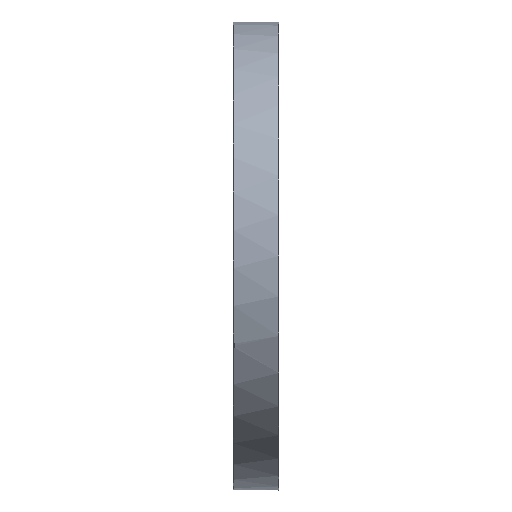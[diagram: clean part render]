
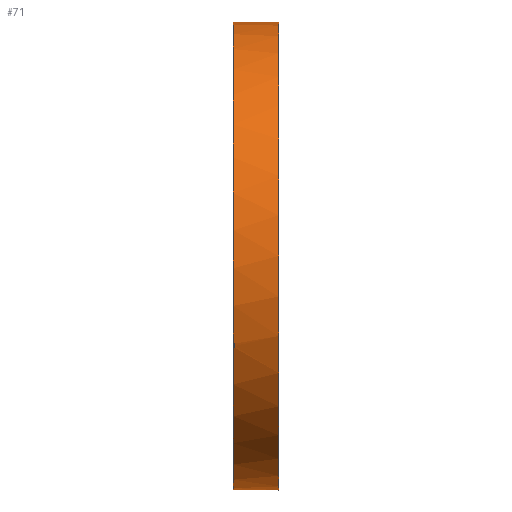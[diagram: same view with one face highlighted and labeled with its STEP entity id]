
A CAD part, front view. The second image highlights one B-rep face of the part: STEP entity #71.
In plain terms, the highlighted cylindrical face has radius 127 mm (diameter 254 mm), a full revolution.
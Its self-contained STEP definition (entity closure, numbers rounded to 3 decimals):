
#71 = ADVANCED_FACE( '', ( #172, #173 ), #174, .T. );
#172 = FACE_OUTER_BOUND( '', #371, .T. );
#173 = FACE_OUTER_BOUND( '', #372, .T. );
#174 = CYLINDRICAL_SURFACE( '', #373, 127. );
#371 = EDGE_LOOP( '', ( #574 ) );
#372 = EDGE_LOOP( '', ( #575, #576, #577, #578 ) );
#373 = AXIS2_PLACEMENT_3D( '', #579, #580, #581 );
#574 = ORIENTED_EDGE( '', *, *, #843, .T. );
#575 = ORIENTED_EDGE( '', *, *, #844, .F. );
#576 = ORIENTED_EDGE( '', *, *, #845, .F. );
#577 = ORIENTED_EDGE( '', *, *, #846, .F. );
#578 = ORIENTED_EDGE( '', *, *, #847, .F. );
#579 = CARTESIAN_POINT( '', ( -60., 0., 0. ) );
#580 = DIRECTION( '', ( 1., 0., 0. ) );
#581 = DIRECTION( '', ( 0., 0., 1. ) );
#843 = EDGE_CURVE( '', #958, #958, #959, .T. );
#844 = EDGE_CURVE( '', #960, #961, #962, .T. );
#845 = EDGE_CURVE( '', #963, #960, #964, .T. );
#846 = EDGE_CURVE( '', #965, #963, #966, .T. );
#847 = EDGE_CURVE( '', #961, #965, #967, .T. );
#958 = VERTEX_POINT( '', #1127 );
#959 = CIRCLE( '', #1128, 127. );
#960 = VERTEX_POINT( '', #1129 );
#961 = VERTEX_POINT( '', #1130 );
#962 = B_SPLINE_CURVE_WITH_KNOTS( '', 3, ( #1131, #1132, #1133, #1134, #1135, #1136, #1137, #1138, #1139, #1140, #1141, #1142, #1143, #1144, #1145, #1146, #1147, #1148 ), .UNSPECIFIED., .F., .F., ( 4, 2, 2, 2, 2, 2, 2, 2, 4 ), ( 0., 0.001, 0.001, 0.002, 0.002, 0.003, 0.003, 0.004, 0.004 ), .UNSPECIFIED. );
#963 = VERTEX_POINT( '', #1149 );
#964 = CIRCLE( '', #1150, 127. );
#965 = VERTEX_POINT( '', #1151 );
#966 = B_SPLINE_CURVE_WITH_KNOTS( '', 3, ( #1152, #1153, #1154, #1155, #1156, #1157, #1158, #1159, #1160, #1161, #1162, #1163, #1164, #1165, #1166, #1167, #1168, #1169 ), .UNSPECIFIED., .F., .F., ( 4, 2, 2, 2, 2, 2, 2, 2, 4 ), ( 0., 0.001, 0.001, 0.002, 0.002, 0.003, 0.003, 0.004, 0.004 ), .UNSPECIFIED. );
#967 = CIRCLE( '', #1170, 127. );
#1127 = CARTESIAN_POINT( '', ( 0., 0., 127. ) );
#1128 = AXIS2_PLACEMENT_3D( '', #1372, #1373, #1374 );
#1129 = CARTESIAN_POINT( '', ( -24.6, 116.537, 50.479 ) );
#1130 = CARTESIAN_POINT( '', ( -24.6, 118.098, 46.71 ) );
#1131 = CARTESIAN_POINT( '', ( -24.6, 116.537, 50.479 ) );
#1132 = CARTESIAN_POINT( '', ( -24.472, 116.592, 50.352 ) );
#1133 = CARTESIAN_POINT( '', ( -24.359, 116.651, 50.216 ) );
#1134 = CARTESIAN_POINT( '', ( -24.161, 116.775, 49.927 ) );
#1135 = CARTESIAN_POINT( '', ( -24.076, 116.841, 49.772 ) );
#1136 = CARTESIAN_POINT( '', ( -23.939, 116.977, 49.45 ) );
#1137 = CARTESIAN_POINT( '', ( -23.887, 117.047, 49.286 ) );
#1138 = CARTESIAN_POINT( '', ( -23.818, 117.188, 48.948 ) );
#1139 = CARTESIAN_POINT( '', ( -23.8, 117.261, 48.774 ) );
#1140 = CARTESIAN_POINT( '', ( -23.8, 117.404, 48.429 ) );
#1141 = CARTESIAN_POINT( '', ( -23.817, 117.474, 48.258 ) );
#1142 = CARTESIAN_POINT( '', ( -23.886, 117.613, 47.918 ) );
#1143 = CARTESIAN_POINT( '', ( -23.939, 117.682, 47.749 ) );
#1144 = CARTESIAN_POINT( '', ( -24.074, 117.812, 47.428 ) );
#1145 = CARTESIAN_POINT( '', ( -24.158, 117.874, 47.274 ) );
#1146 = CARTESIAN_POINT( '', ( -24.357, 117.992, 46.979 ) );
#1147 = CARTESIAN_POINT( '', ( -24.472, 118.047, 46.839 ) );
#1148 = CARTESIAN_POINT( '', ( -24.6, 118.098, 46.71 ) );
#1149 = CARTESIAN_POINT( '', ( -24.6, -118.098, -46.71 ) );
#1150 = AXIS2_PLACEMENT_3D( '', #1375, #1376, #1377 );
#1151 = CARTESIAN_POINT( '', ( -24.6, -116.537, -50.479 ) );
#1152 = CARTESIAN_POINT( '', ( -24.6, -116.537, -50.479 ) );
#1153 = CARTESIAN_POINT( '', ( -24.472, -116.592, -50.352 ) );
#1154 = CARTESIAN_POINT( '', ( -24.359, -116.651, -50.216 ) );
#1155 = CARTESIAN_POINT( '', ( -24.161, -116.775, -49.927 ) );
#1156 = CARTESIAN_POINT( '', ( -24.076, -116.841, -49.772 ) );
#1157 = CARTESIAN_POINT( '', ( -23.939, -116.977, -49.45 ) );
#1158 = CARTESIAN_POINT( '', ( -23.887, -117.047, -49.286 ) );
#1159 = CARTESIAN_POINT( '', ( -23.818, -117.188, -48.948 ) );
#1160 = CARTESIAN_POINT( '', ( -23.8, -117.261, -48.774 ) );
#1161 = CARTESIAN_POINT( '', ( -23.8, -117.404, -48.429 ) );
#1162 = CARTESIAN_POINT( '', ( -23.817, -117.474, -48.258 ) );
#1163 = CARTESIAN_POINT( '', ( -23.886, -117.613, -47.918 ) );
#1164 = CARTESIAN_POINT( '', ( -23.939, -117.682, -47.749 ) );
#1165 = CARTESIAN_POINT( '', ( -24.074, -117.812, -47.428 ) );
#1166 = CARTESIAN_POINT( '', ( -24.158, -117.874, -47.274 ) );
#1167 = CARTESIAN_POINT( '', ( -24.357, -117.992, -46.979 ) );
#1168 = CARTESIAN_POINT( '', ( -24.472, -118.047, -46.839 ) );
#1169 = CARTESIAN_POINT( '', ( -24.6, -118.098, -46.71 ) );
#1170 = AXIS2_PLACEMENT_3D( '', #1378, #1379, #1380 );
#1372 = CARTESIAN_POINT( '', ( 0., 0., 0. ) );
#1373 = DIRECTION( '', ( -1., 0., 0. ) );
#1374 = DIRECTION( '', ( 0., 0., 1. ) );
#1375 = CARTESIAN_POINT( '', ( -24.6, 0., 0. ) );
#1376 = DIRECTION( '', ( -1., 0., 0. ) );
#1377 = DIRECTION( '', ( 0., 0., 1. ) );
#1378 = CARTESIAN_POINT( '', ( -24.6, 0., 0. ) );
#1379 = DIRECTION( '', ( -1., 0., 0. ) );
#1380 = DIRECTION( '', ( 0., 0., 1. ) );
